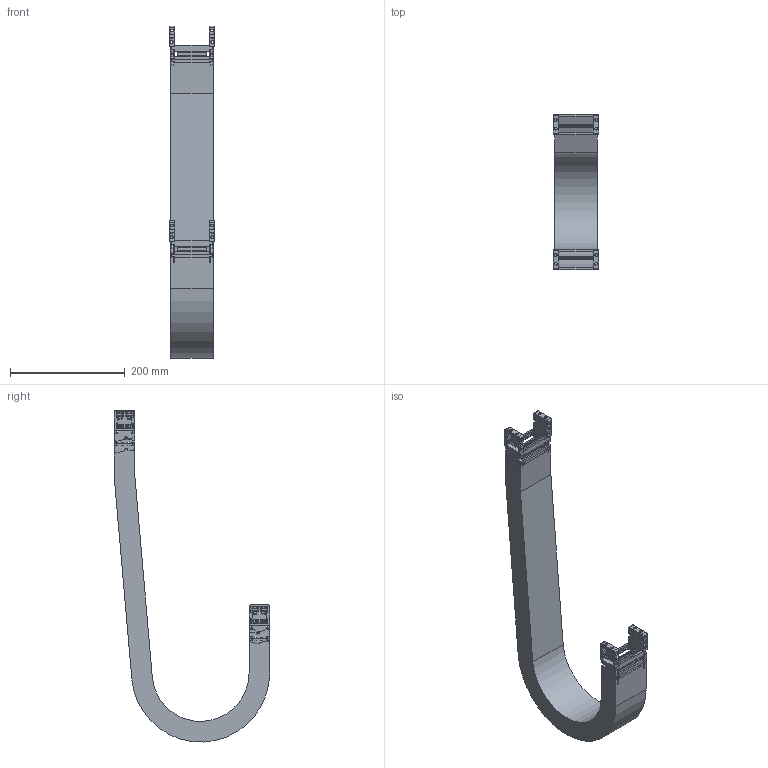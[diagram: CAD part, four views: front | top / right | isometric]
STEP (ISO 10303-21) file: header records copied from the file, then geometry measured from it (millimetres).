
FILE_DESCRIPTION((''),'2;1');
FILE_NAME('KST-25060-100_ASM','2017-12-05T',('KUNI004K'),(''),'PRO/ENGINEER BY PARAMETRIC TECHNOLOGY CORPORATION, 2015200','PRO/ENGINEER BY PARAMETRIC TECHNOLOGY CORPORATION, 2015200','');
FILE_SCHEMA(('AUTOMOTIVE_DESIGN { 1 0 10303 214 1 1 1 1 }'));
Length unit declared in the file: millimetre
Products named in the file (13): 25FBR; 25FBL; 25060C; KST25FBR_W060_ASM; 25100R; 25100L; 25060H; KST25060-100_1_ASM; KST25060_R100_BODY; 25MBR; 25MBL; KST25MBR_W060_ASM; KST-25060-100_ASM
Assembly tree (19 placements, depth 3):
  KST-25060-100_ASM
    KST25FBR_W060_ASM
      25FBR
      25FBL
      25060C  x2
    KST25060-100_1_ASM  x2
      25100R
      25100L
      25060C
      25060H
    KST25060_R100_BODY
    KST25MBR_W060_ASM
      25MBR
      25MBL
      25060C  x2
Bounding box: 80 x 271 x 579.19 mm (x, y, z)
Volume: 1006978.5 mm3; surface area: 471918.1 mm2
Topology: 21 solids, 21 shells, 2564 faces, 7130 edges, 4624 vertices
Faces by surface type: plane 1330, cylinder 930, bspline 208, sphere 64, torus 32
Entity records: 68636 total; most frequent: CARTESIAN_POINT 14286, ORIENTED_EDGE 7396, DIRECTION 6500, PRESENTATION_STYLE_ASSIGNMENT 4998, STYLED_ITEM 4998, CURVE_STYLE 3698, EDGE_CURVE 3698, VECTOR 2454
